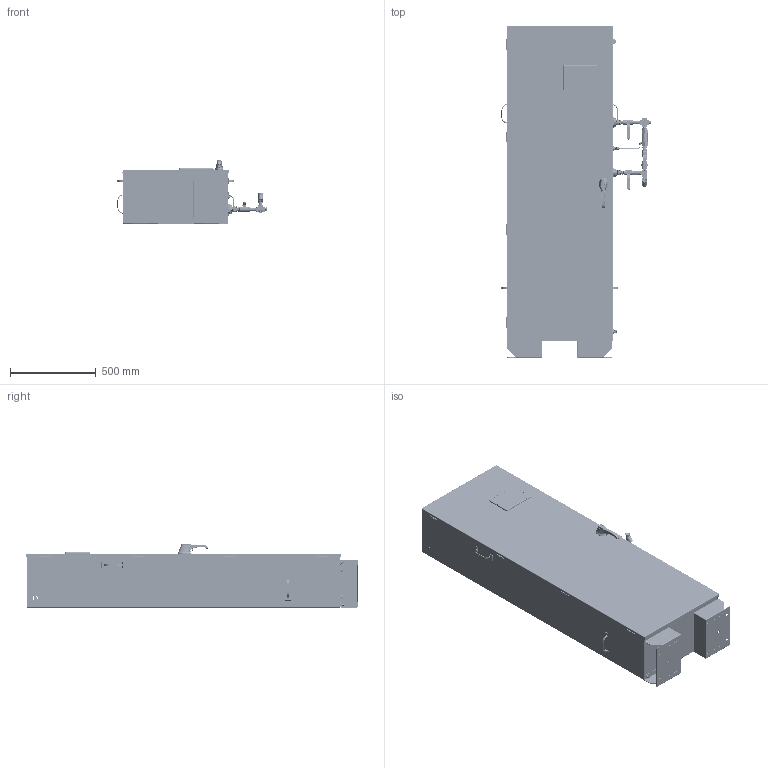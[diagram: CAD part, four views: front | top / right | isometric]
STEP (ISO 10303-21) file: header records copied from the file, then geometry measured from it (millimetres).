
FILE_DESCRIPTION(/* description */ (''),/* implementation_level */ '2;1');
FILE_NAME(/* name */ 'C:\Vault Local\Designs\CAD\Manufacturing\ECS Products\PGEN Nitrogen Generators\PGEN-60\AG-22500.stp',/* time_stamp */ '2021-08-06T10:37:45-05:00',/* author */ ('atroll'),/* organization */ (''),/* preprocessor_version */ 'ST-DEVELOPER v18.1',/* originating_system */ 'Autodesk Inventor 2020',/* authorisation */ '');
FILE_SCHEMA (('AUTOMOTIVE_DESIGN { 1 0 10303 214 3 1 1 }'));
Products named in the file (1): AG-22500_Shrinkwrap_1
Bounding box: 869.43 x 1935.44 x 367.6 mm (x, y, z)
Volume: 8844211.8 mm3; surface area: 8822947.1 mm2
Topology: 6 solids, 53 shells, 6251 faces, 19884 edges, 13558 vertices
Faces by surface type: plane 2588, cylinder 1422, cone 1265, bspline 693, torus 190, sphere 93
Full cylindrical faces by diameter (mm): 0.5 x8, 1 x20, 1.905 x2, 2 x2, 2.286 x8, 2.8 x4, 3 x3, 3.175 x5, 3.3 x1, 3.5 x5, 3.7 x1, 3.8 x2, 3.969 x3, 4.1 x3, 5 x1, 5.156 x4, 6 x1, 6.35 x8, 6.6 x2, 6.607 x1, 6.909 x2, 6.945 x1, 7.057 x28, 7.2 x2, 7.233 x1, 7.772 x1, 7.785 x25, 7.836 x6, 7.938 x3, 7.952 x1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
Entity records: 534169 total; most frequent: CARTESIAN_POINT 361394, ORIENTED_EDGE 36803, DIRECTION 31374, EDGE_CURVE 19837, VERTEX_POINT 13558, AXIS2_PLACEMENT_3D 10860, LINE 9654, VECTOR 9654
